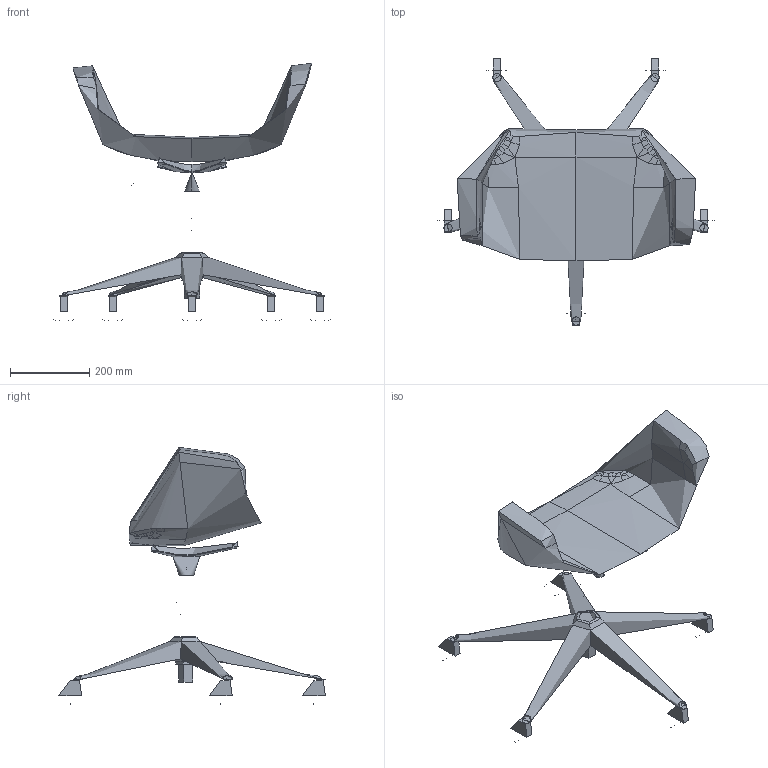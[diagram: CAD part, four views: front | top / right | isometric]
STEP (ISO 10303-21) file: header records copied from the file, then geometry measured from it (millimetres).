
FILE_DESCRIPTION(/* description */ (''),/* implementation_level */ '2;1');
FILE_NAME(/* name */ 'RIVA RI-02,F15-BL',/* time_stamp */ '2025-02-08T07:46:39+01:00',/* author */ (''),/* organization */ (''),/* preprocessor_version */ 'ST-DEVELOPER v16.5',/* originating_system */ 'Rhino 7.37',/* authorisation */ '');
FILE_SCHEMA (('CONFIG_CONTROL_DESIGN'));
Length unit declared in the file: millimetre
Products named in the file (1): Document
Bounding box: 696.72 x 672.99 x 649.66 mm (x, y, z)
Volume: 421683.9 mm3; surface area: 1482349.3 mm2
Topology: 6 solids, 39 shells, 324 faces, 749 edges, 456 vertices
Faces by surface type: bspline 178, plane 98, cylinder 48
Full cylindrical faces by diameter (mm): 10 x6, 28 x1, 50 x1, 60 x10
Entity records: 34343 total; most frequent: CARTESIAN_POINT 29541, ORIENTED_EDGE 1411, EDGE_CURVE 743, B_SPLINE_CURVE_WITH_KNOTS 466, VERTEX_POINT 454, ADVANCED_FACE 324, FACE_OUTER_BOUND 324, EDGE_LOOP 324
